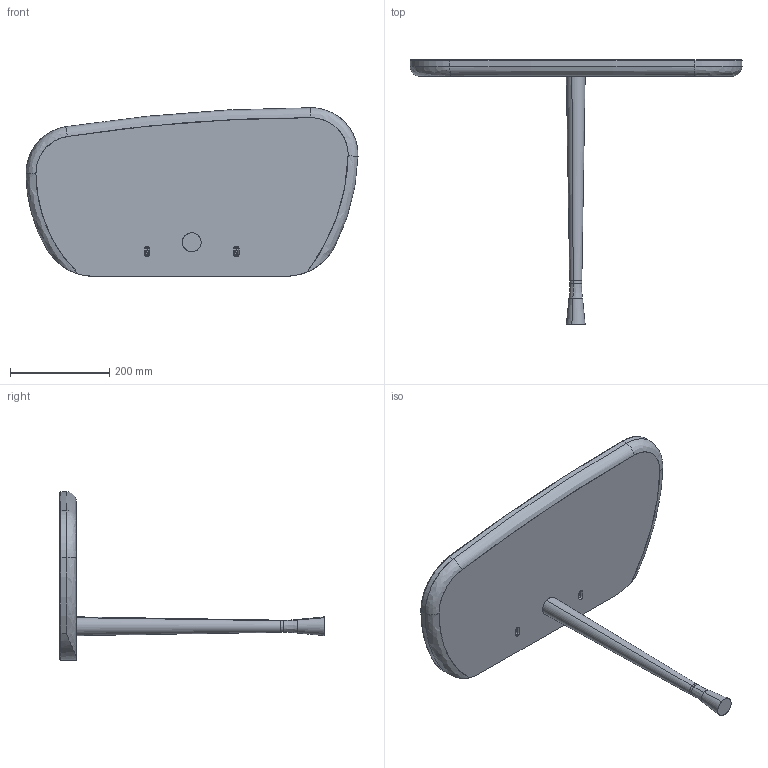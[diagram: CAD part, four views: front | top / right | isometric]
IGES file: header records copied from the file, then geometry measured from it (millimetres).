
Start section: SolidWorks IGES file using analytic representation for surfaces
Global section: file name: N:\OT\OFICINA TECNICA\PROYECTOS\EN DESARROLLO\COLECCION_MOMENTOS\MESITA_CONSOLA\3D-PLANOS\MESITA\MESITA.IGS; native system: SolidWorks 2016; preprocessor: SolidWorks 2016; author: Usuario; date: 170505.093508; units: millimetre
Bounding box: 670 x 533 x 340 mm (x, y, z)
Surface area: 551032 mm2 (no closed solid volume)
Topology: 0 solids, 0 shells, 139 faces, 2077 edges, 2077 vertices
Faces by surface type: bspline 74, revolution 65
